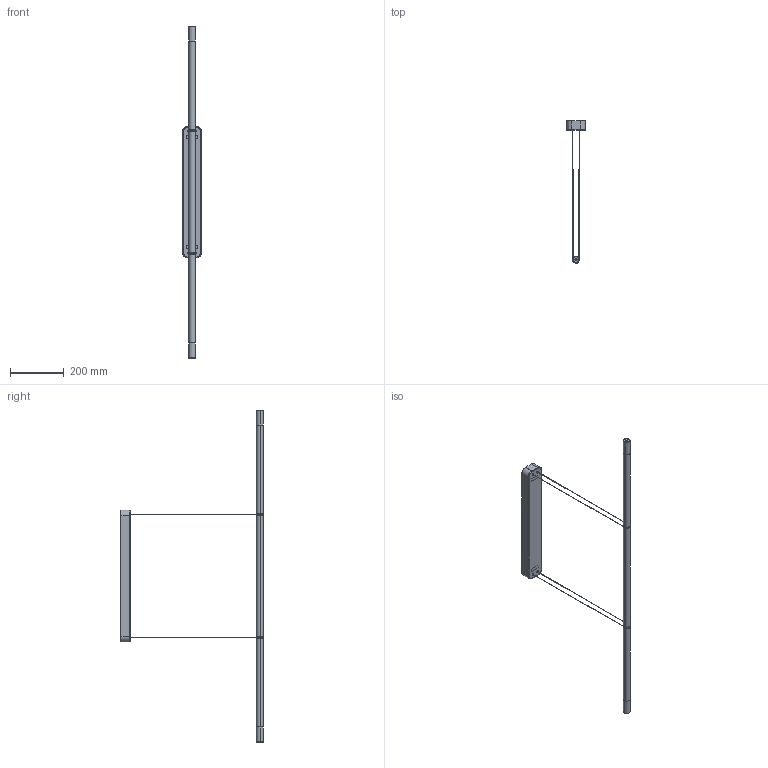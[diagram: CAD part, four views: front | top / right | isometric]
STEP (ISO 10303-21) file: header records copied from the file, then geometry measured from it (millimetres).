
FILE_DESCRIPTION (( 'STEP AP203' ), '1' );
FILE_NAME ('volta_assieme_120.STEP', '2015-12-29T15:35:04', ( 'admin' ), ( 'Hewlett-Packard Company' ), 'SwSTEP 2.0', 'SolidWorks 2015', '' );
FILE_SCHEMA (( 'CONFIG_CONTROL_DESIGN' ));
Length unit declared in the file: millimetre
Products named in the file (1): volta_assieme_120
Bounding box: 70 x 528.54 x 1234 mm (x, y, z)
Surface area: 247947.8 mm2 (no closed solid volume)
Topology: 0 solids, 25 shells, 111 faces, 334 edges, 240 vertices
Faces by surface type: cylinder 64, plane 21, torus 12, bspline 8, cone 6
Entity records: 3925 total; most frequent: DIRECTION 758, CARTESIAN_POINT 742, ORIENTED_EDGE 500, EDGE_CURVE 334, AXIS2_PLACEMENT_3D 320, VERTEX_POINT 240, CIRCLE 216, EDGE_LOOP 130
